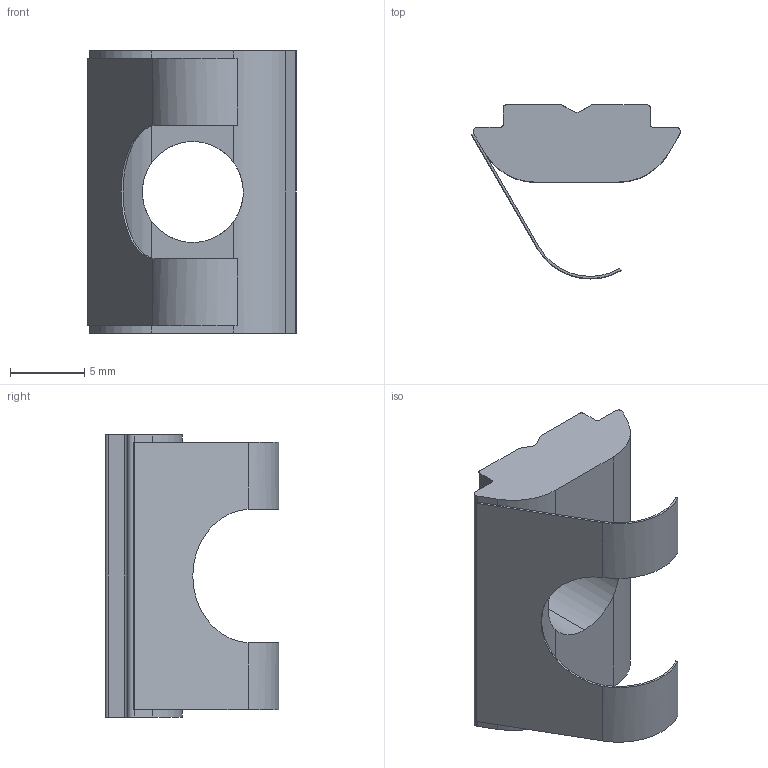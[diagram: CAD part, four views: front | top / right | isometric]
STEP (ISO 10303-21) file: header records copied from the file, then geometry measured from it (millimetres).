
FILE_DESCRIPTION (( 'STEP AP203' ), '1' );
FILE_NAME ('332060_Nutenstein Nut 10 M8 einschwenkbar mit Federblech.step', '2022-02-28T07:08:02', ( '' ), ( '' ), 'SwSTEP 2.0', 'SolidWorks 2021', '' );
FILE_SCHEMA (( 'CONFIG_CONTROL_DESIGN' ));
Length unit declared in the file: millimetre
Products named in the file (1): 332060_Nutenstein Nut 10 M8 einschwenkbar mit Federblech
Bounding box: 14.06 x 11.7 x 19 mm (x, y, z)
Volume: 941.5 mm3; surface area: 1135.7 mm2
Topology: 1 solids, 1 shells, 46 faces, 134 edges, 88 vertices
Faces by surface type: plane 27, cylinder 19
Entity records: 1639 total; most frequent: CARTESIAN_POINT 335, ORIENTED_EDGE 268, DIRECTION 252, EDGE_CURVE 134, VERTEX_POINT 88, AXIS2_PLACEMENT_3D 85, VECTOR 82, LINE 82
